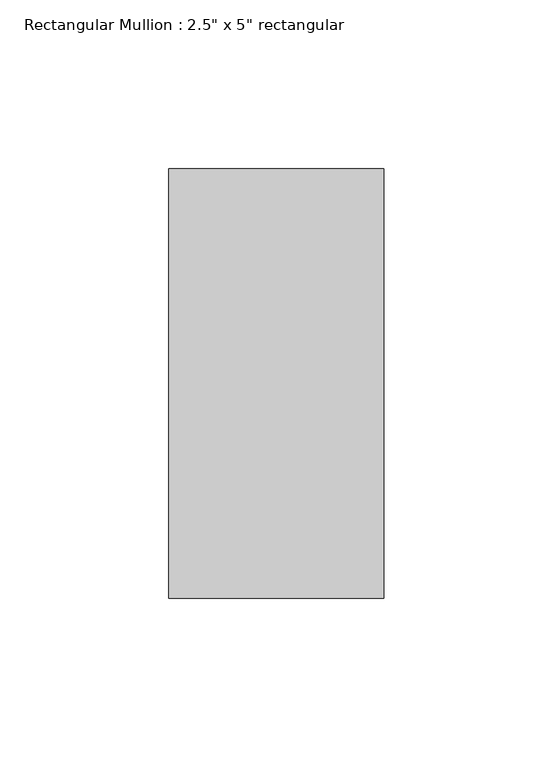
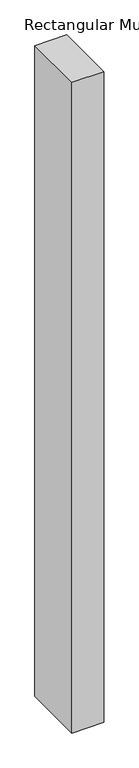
"""IFC4 building model written with IfcOpenShell, lengths in millimetres: member geometry."""

from ifc_helpers import new_model, si_unit, frame, origin, place, context, project, spatial, polyline, outline, extrude, source, transform, mapped, element, save


def member_4a582d1b(model_context):
    return source(origin(), model_context, "Body", "SweptSolid", [
        extrude(outline(polyline([(31.75, 63.5), (31.75, -63.5), (-31.75, -63.5), (-31.75, 63.5), (31.75, 63.5)])), frame((0.0, 0.0, -1362.5976312), z_axis=(0.0, 0.0, 1.0), x_axis=(1.0, 0.0, 0.0)), (0.0, 0.0, 1.0), 1362.5976312),
    ])


if __name__ == "__main__":
    model = new_model("IFC4")
    model_context = context("Model", 3, world=origin())
    ifc_project = project(units=[si_unit("LENGTHUNIT", "METRE", prefix="MILLI")], contexts=[model_context])
    site = spatial("IfcSite", under=ifc_project)
    building = spatial("IfcBuilding", under=site)
    placement = place(None, origin())
    member_shape = member_4a582d1b(model_context)
    element("IfcMember", 1, ObjectType="Rectangular Mullion : 2.5\" x 5\" rectangular", at=placement, inside=building, context=model_context, shape_type="MappedRepresentation", body=[
        mapped(member_shape, transform((0.0, 0.0, 0.0), x_axis=(1.0, 0.0, 0.0), y_axis=(0.0, 1.0, 0.0), z_axis=(0.0, 0.0, 1.0))),
    ])
    save(model, "model.ifc")
